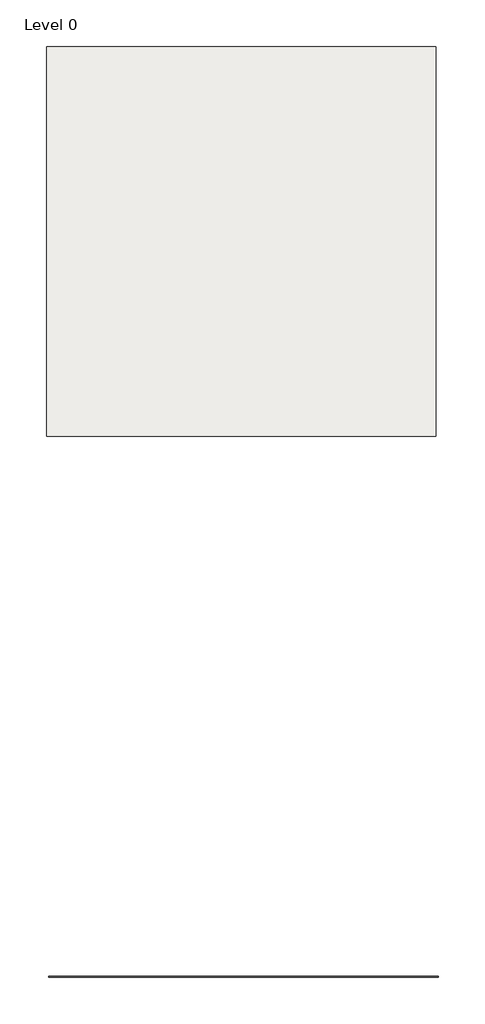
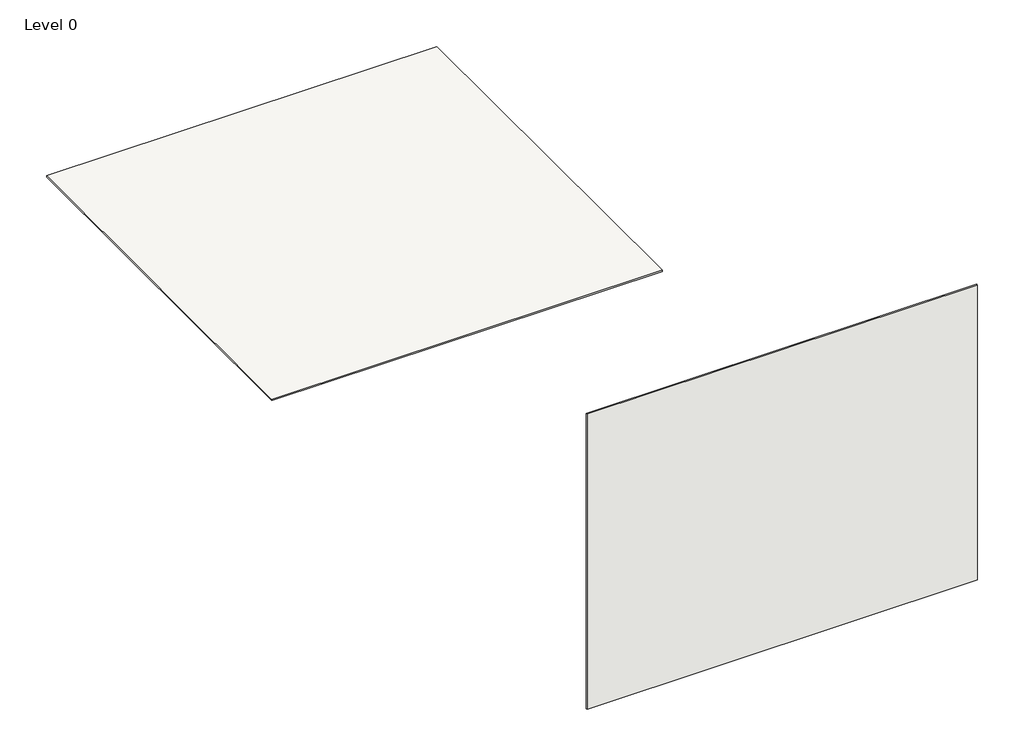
# One storey: 2 coverings.
"""IFC4 building model written with IfcOpenShell, lengths in millimetres."""

import ifcopenshell
import ifcopenshell.guid

model = None  # the IFC model being written
_history = None  # IfcOwnerHistory: only IFC2X3 demands one
_inside = {}  # id of a spatial element -> (the spatial element, [elements in it])
_under = {}  # id of a project, library or spatial element -> (it, [spatial elements below it])
_declared = {}  # id of a project -> (the project, [libraries it declares])
_typed = {}  # id of a type object -> (the type object, [elements of that type])
_made_of = {}  # id of a material, layer set ... -> (it, [elements and type objects made of it])


def new_model(schema):
    """Start an empty IFC model of exactly this schema.

    Asked for "IFC4X3", IfcOpenShell would pick the latest addendum, in which some entities
    have other attributes; the version numbers below select the first issue.
    IFC2X3 requires an IfcOwnerHistory on every rooted entity: one is made here for all.
    """
    global model, _history
    if schema == "IFC4X3":
        model = ifcopenshell.file(schema_version=(4, 3, 0, 0))
    else:
        model = ifcopenshell.file(schema=schema)
    _inside.clear()
    _under.clear()
    _declared.clear()
    _typed.clear()
    _made_of.clear()
    _history = None
    if model.schema == "IFC2X3":
        org = make("IfcOrganization", Name="unknown")
        user = make(
            "IfcPersonAndOrganization",
            ThePerson=make("IfcPerson", FamilyName="unknown"),
            TheOrganization=org,
        )
        app = make(
            "IfcApplication",
            ApplicationDeveloper=org,
            Version="unknown",
            ApplicationFullName="unknown",
            ApplicationIdentifier="unknown",
        )
        _history = make(
            "IfcOwnerHistory",
            OwningUser=user,
            OwningApplication=app,
            ChangeAction="ADDED",
            CreationDate=0,
        )
    return model


def make(cls, **values):
    """One entity of the class cls with the attributes given. An attribute that is None is left unset."""
    return model.create_entity(
        cls, **{name: value for name, value in values.items() if value is not None}
    )


def rooted(cls, **values):
    """An entity with a GlobalId (a new one), such as an element, a storey or a relation."""
    return make(cls, GlobalId=ifcopenshell.guid.new(), OwnerHistory=_history, **values)


def si_unit(unit_type, name, prefix=None):
    """IfcSIUnit, for example si_unit("LENGTHUNIT", "METRE", prefix="MILLI")."""
    return make("IfcSIUnit", UnitType=unit_type, Prefix=prefix, Name=name)


def assignment(units):
    """IfcUnitAssignment: the units of a project."""
    return None if units is None else make("IfcUnitAssignment", Units=units)


def point(xyz):
    """IfcCartesianPoint."""
    return None if xyz is None else make("IfcCartesianPoint", Coordinates=xyz)


def direction(xyz):
    """IfcDirection."""
    return None if xyz is None else make("IfcDirection", DirectionRatios=xyz)


def frame(location, z_axis=None, x_axis=None):
    """IfcAxis2Placement3D, a coordinate frame: its origin and axes. An axis left out is left unset."""
    return make(
        "IfcAxis2Placement3D",
        Location=point(location),
        Axis=direction(z_axis),
        RefDirection=direction(x_axis),
    )


def origin():
    """The frame at (0, 0, 0) with its axes left unset."""
    return frame((0.0, 0.0, 0.0))


def origin_with_axes():
    """The frame at (0, 0, 0) with the z axis (0, 0, 1) and the x axis (1, 0, 0) written out."""
    return frame((0.0, 0.0, 0.0), z_axis=(0.0, 0.0, 1.0), x_axis=(1.0, 0.0, 0.0))


def place(relative_to, where):
    """IfcLocalPlacement: puts the frame where relative to a parent placement (None: the world)."""
    return make(
        "IfcLocalPlacement", PlacementRelTo=relative_to, RelativePlacement=where
    )


def context(
    kind, dimensions, precision=None, world=None, true_north=None, identifier=None
):
    """IfcGeometricRepresentationContext, for example the 3D "Model" context."""
    return make(
        "IfcGeometricRepresentationContext",
        ContextIdentifier=identifier,
        ContextType=kind,
        CoordinateSpaceDimension=dimensions,
        Precision=precision,
        WorldCoordinateSystem=world,
        TrueNorth=true_north,
    )


def project(units=None, contexts=None):
    """IfcProject with its units and contexts."""
    return rooted(
        "IfcProject",
        Name="project",
        RepresentationContexts=contexts,
        UnitsInContext=assignment(units),
    )


def spatial(cls, under=None, at=None, **own):
    """A site, building, storey or space (cls), placed at a placement, below another one or the project."""
    s = rooted(cls, ObjectPlacement=at, **own)
    if under is not None:
        _under.setdefault(under.id(), (under, []))[1].append(s)
    return s


def polyline(points):
    """IfcPolyline through the points."""
    return make("IfcPolyline", Points=[point(p) for p in points])


def outline(outer, holes=None, kind="AREA"):
    """IfcArbitraryClosedProfileDef: a profile drawn as a closed curve; with holes, ...WithVoids."""
    if holes is None:
        return make("IfcArbitraryClosedProfileDef", ProfileType=kind, OuterCurve=outer)
    return make(
        "IfcArbitraryProfileDefWithVoids",
        ProfileType=kind,
        OuterCurve=outer,
        InnerCurves=holes,
    )


def extrude(swept, where, along, depth):
    """IfcExtrudedAreaSolid: the profile swept, set in the frame where, extruded along a direction by depth."""
    return make(
        "IfcExtrudedAreaSolid",
        SweptArea=swept,
        Position=where,
        ExtrudedDirection=direction(along),
        Depth=depth,
    )


def shape(context_of_items, identifier, shape_type, items):
    """IfcShapeRepresentation: the items that make up one representation, for example the "Body"."""
    return make(
        "IfcShapeRepresentation",
        ContextOfItems=context_of_items,
        RepresentationIdentifier=identifier,
        RepresentationType=shape_type,
        Items=items,
    )


def made_of(thing, what):
    """Note that an element or type object is made of a material, layer set ...; save() writes the relation."""
    if what is not None:
        _made_of.setdefault(what.id(), (what, []))[1].append(thing)
    return thing


def element(
    cls,
    number,
    at=None,
    inside=None,
    cuts=None,
    type_object=None,
    material=None,
    context=None,
    identifier="Body",
    shape_type=None,
    held_by="IfcProductDefinitionShape",
    body=None,
    shapes=None,
    **own,
):
    """One element of the class cls, such as IfcWall. Its Tag is "e" and its number.

    at: its placement. inside: the storey or other place that contains it. cuts: it is an
    opening in that element (IfcRelVoidsElement). A single representation is given by context,
    identifier, shape_type and body (its items); several are given by shapes. held_by: the class
    of the entity that holds the representations. save() writes the other relations.
    """
    e = rooted(cls, Tag="e%d" % number, ObjectPlacement=at, **own)
    if body is not None:
        shapes = [shape(context, identifier, shape_type, body)]
    if shapes is not None:
        e.Representation = make(held_by, Representations=shapes)
    if inside is not None:
        _inside.setdefault(inside.id(), (inside, []))[1].append(e)
    if cuts is not None:
        rooted(
            "IfcRelVoidsElement", RelatingBuildingElement=cuts, RelatedOpeningElement=e
        )
    if type_object is not None:
        _typed.setdefault(type_object.id(), (type_object, []))[1].append(e)
    return made_of(e, material)


def aggregate(whole, parts):
    """IfcRelAggregates: a whole, such as a stair, and the parts it consists of."""
    return rooted("IfcRelAggregates", RelatingObject=whole, RelatedObjects=parts)


def save(model, path):
    """Write the relations noted so far, then the file.

    IfcRelAggregates (storeys below a building ...), IfcRelContainedInSpatialStructure (elements
    in a storey), IfcRelDefinesByType, IfcRelAssociatesMaterial and IfcRelDeclares: one each for
    every whole, place, type object, material and project.
    """
    for whole, parts in _under.values():
        aggregate(whole, parts)
    for where, things in _inside.values():
        rooted(
            "IfcRelContainedInSpatialStructure",
            RelatedElements=things,
            RelatingStructure=where,
        )
    for kind, things in _typed.values():
        rooted("IfcRelDefinesByType", RelatedObjects=things, RelatingType=kind)
    for what, things in _made_of.values():
        rooted("IfcRelAssociatesMaterial", RelatedObjects=things, RelatingMaterial=what)
    for by, libraries in _declared.values():
        rooted("IfcRelDeclares", RelatingContext=by, RelatedDefinitions=libraries)
    model.write(path)


model = new_model("IFC4")

# Units and contexts
model_context = context("Model", 3, world=origin())
ifc_project = project(units=[si_unit("LENGTHUNIT", "METRE", prefix="MILLI")], contexts=[model_context])

# Site, building, storey
site = spatial("IfcSite", under=ifc_project)
building = spatial("IfcBuilding", under=site)
storey = spatial("IfcBuildingStorey", under=building, Name="Level 0", Elevation=0.0)

# Coverings
placement = place(None, origin())
element("IfcCovering", 1, ObjectType="NBS_DeltaMembraneSystemsLtd_High-densityPolyethylenePE-HDStuddedSheets_DeltaMS500Fire-FireRetardantStuddedCavityMembrane", at=placement, inside=storey, context=model_context, shape_type="SweptSolid", body=[
    extrude(outline(polyline([(1524.0, -4024.0), (1524.0, -1524.0), (4024.0, -1524.0), (4024.0, -4024.0), (1524.0, -4024.0)])), frame((0.0, 0.0, -8.0), z_axis=(0.0, 0.0, 1.0), x_axis=(1.0, 0.0, 0.0)), (0.0, 0.0, 1.0), 8.0),
])
element("IfcCovering", 2, ObjectType="NBS_DeltaMembraneSystemsLtd_High-densityPolyethylenePE-HDStuddedSheets_DeltaMS500Fire-FireRetardantStuddedCavityMembrane", at=placement, inside=storey, context=model_context, shape_type="SweptSolid", body=[
    extrude(outline(polyline([(1538.539586, -7485.1556361), (4038.539586, -7485.1556361), (4038.539586, -7493.1556361), (1538.539586, -7493.1556361), (1538.539586, -7485.1556361)])), origin_with_axes(), (0.0, 0.0, 1.0), 2000.0),
])

save(model, "model.ifc")
